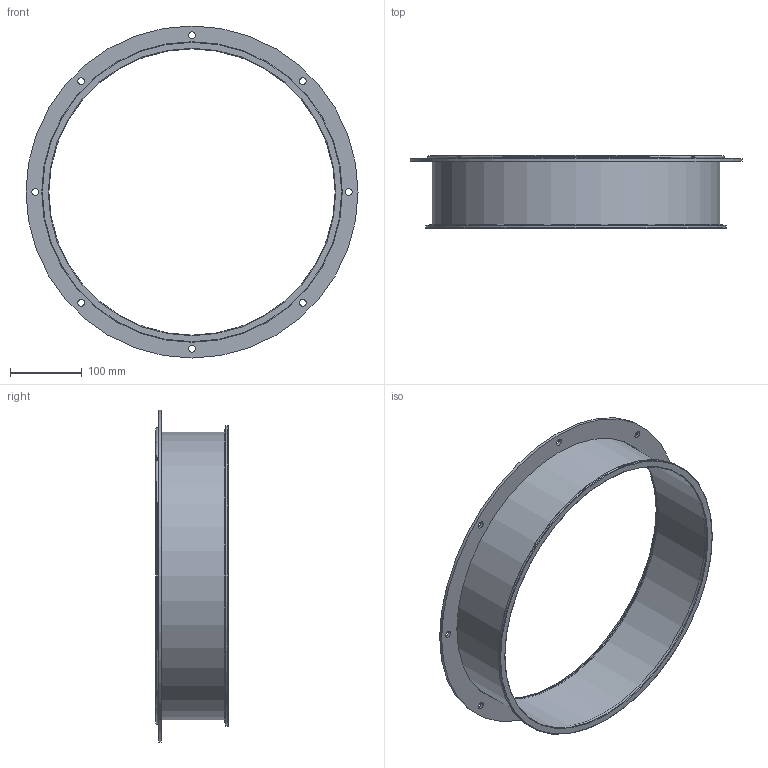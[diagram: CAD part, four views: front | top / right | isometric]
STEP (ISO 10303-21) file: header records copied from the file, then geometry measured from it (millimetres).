
FILE_DESCRIPTION(/* description */ (''),/* implementation_level */ '2;1');
FILE_NAME(/* name */ 'METU_EA108-41D_400_L100.stp',/* time_stamp */ '2018-10-10T13:29:12+02:00',/* author */ (''),/* organization */ (''),/* preprocessor_version */ 'ST-DEVELOPER v11',/* originating_system */ 'SIEMENS UGS NX 6.0',/* authorisation */ '');
FILE_SCHEMA (('CONFIG_CONTROL_DESIGN'));
Length unit declared in the file: millimetre
Products named in the file (1): garsCF17de8q
Bounding box: 464 x 101.5 x 464 mm (x, y, z)
Volume: 347697.7 mm3; surface area: 420135 mm2
Topology: 3 solids, 3 shells, 32 faces, 76 edges, 53 vertices
Faces by surface type: cylinder 17, plane 9, torus 5, cone 1
Full cylindrical faces by diameter (mm): 9.5 x8, 400 x2, 401.6 x1, 402 x1, 404 x1, 411.6 x1, 412 x1, 420 x1, 464 x1
Entity records: 850 total; most frequent: DIRECTION 146, CARTESIAN_POINT 113, FACE_BOUND 80, EDGE_LOOP 80, ORIENTED_EDGE 80, AXIS2_PLACEMENT_3D 73, VERTEX_POINT 40, EDGE_CURVE 40
